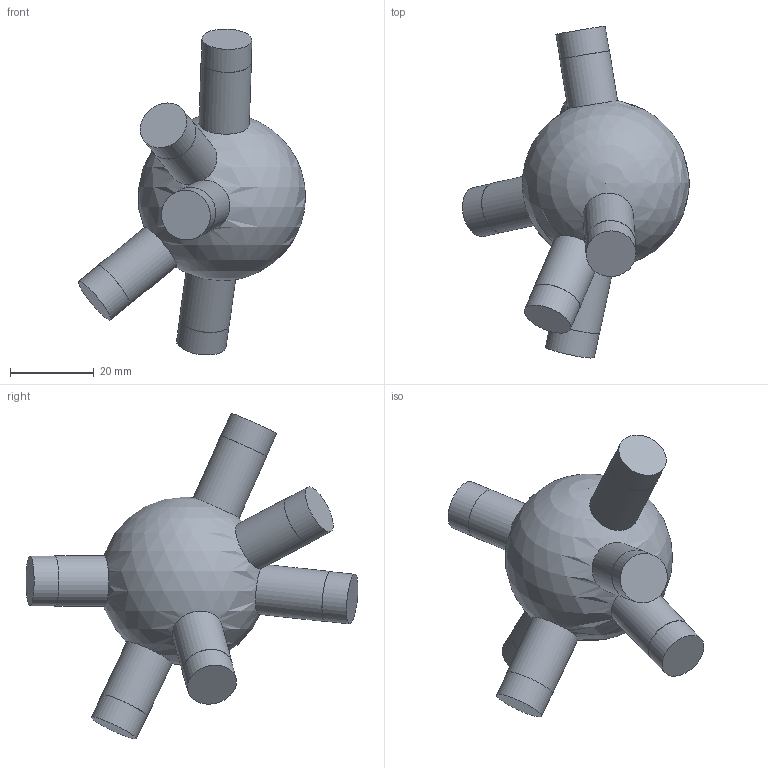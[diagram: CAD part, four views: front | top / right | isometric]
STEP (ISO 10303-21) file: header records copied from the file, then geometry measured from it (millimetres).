
FILE_DESCRIPTION(('Open CASCADE Model'),'2;1');
FILE_NAME('Open CASCADE Shape Model','2026-10-21T12:47:57',('Author'),( 'Open CASCADE'),'Open CASCADE STEP processor 7.9','Open CASCADE 7.9' ,'Unknown');
FILE_SCHEMA(('AUTOMOTIVE_DESIGN { 1 0 10303 214 1 1 1 1 }'));
Length unit declared in the file: millimetre
Products named in the file (1): Open CASCADE STEP translator 7.9 120
Bounding box: 54.15 x 79.17 x 77.74 mm (x, y, z)
Volume: 47053.9 mm3; surface area: 9639.1 mm2
Topology: 1 solids, 1 shells, 25 faces, 43 edges, 29 vertices
Faces by surface type: cylinder 12, plane 12, sphere 1
Full cylindrical faces by diameter (mm): 11.9 x6, 12 x6
Entity records: 1649 total; most frequent: CARTESIAN_POINT 725, DIRECTION 187, ORIENTED_EDGE 80, PCURVE 80, DEFINITIONAL_REPRESENTATION 80, LINE 61, VECTOR 61, AXIS2_PLACEMENT_3D 54
